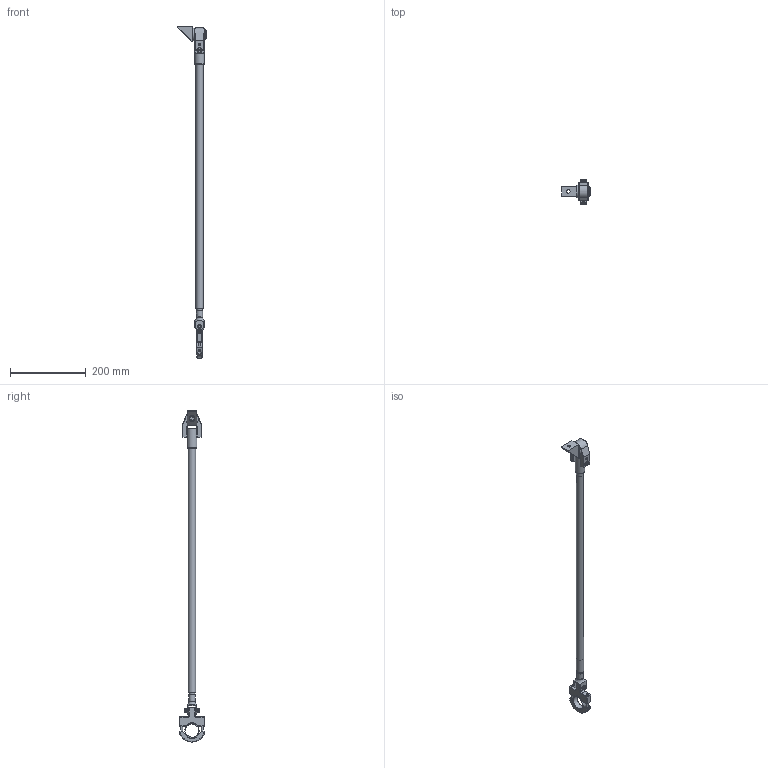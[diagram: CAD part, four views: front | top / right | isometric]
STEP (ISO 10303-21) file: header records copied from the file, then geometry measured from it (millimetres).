
FILE_DESCRIPTION(/* description */ ('Unknown'),/* implementation_level */ '2;1');
FILE_NAME(/* name */ '4-1201006_bras DMF 12_2000',/* time_stamp */ '2016-04-06T14:09:46+02:00',/* author */ ('Unknown'),/* organization */ ('Unknown'),/* preprocessor_version */ 'ST-DEVELOPER v16',/* originating_system */ 'DEX',/* authorisation */ $);
FILE_SCHEMA (('AUTOMOTIVE_DESIGN {1 0 10303 214 3 1 1}'));
Length unit declared in the file: millimetre
Products named in the file (30): 4-1201006_bras DMF 12_2000; Asm Pince pour DMF12; CHC M5x45 fileté sous tête; Collier DMF12; Pince pour DMF12; Placement; Asm Jonc 10 pour DMF12 Lg 2000; 05 Z; 06 Z; H M06 Nyl; CHC Epaulé M5-25; Goupille élastique; Chape pince pour DMF12; Tube 10,2x12; Jonc 10 RDB; Asm Tube 14 pour DMF12 Lg 2000; Tube 14,2x16; Tube 14x12,2 RDB; Asm Tube 19 pour DMF12 Lg 2000; Tube 19x16.2 RDB; Fourreau DMF12; Asm Pivot; CHC M8x30; Pivot S26; Asm Chape équilibreur pour DMF 12; Anneau élastique pour arbre 25; CHC Epaulé M6-30; Chape de fixation DMF12; Equerre
Assembly tree (31 placements, depth 3):
  4-1201006_bras DMF 12_2000
    Asm Pince pour DMF12
      CHC M5x45 fileté sous tête  x2
      Collier DMF12
      Pince pour DMF12
      Placement
    Asm Jonc 10 pour DMF12 Lg 2000
      05 Z
      06 Z
      H M06 Nyl
      CHC Epaulé M5-25
      Goupille élastique
      Chape pince pour DMF12
      Tube 10,2x12
      Jonc 10 RDB
    Asm Tube 14 pour DMF12 Lg 2000
      Tube 10,2x12
      Tube 14,2x16
      Tube 14x12,2 RDB
    Asm Tube 19 pour DMF12 Lg 2000
      Tube 14,2x16
      Tube 19x16.2 RDB
      Fourreau DMF12
    Asm Pivot
      CHC M8x30
      Pivot S26
    Asm Chape équilibreur pour DMF 12
      Anneau élastique pour arbre 25
      CHC Epaulé M6-30
      Chape de fixation DMF12
    Equerre
Bounding box: 74.75 x 67 x 877.16 mm (x, y, z)
Volume: 285234 mm3; surface area: 230557.9 mm2
Topology: 25 solids, 25 shells, 378 faces, 811 edges, 502 vertices
Faces by surface type: plane 253, cylinder 89, cone 31, torus 5
Full cylindrical faces by diameter (mm): 2 x2, 3.1 x3, 4.2 x2, 4.8 x2, 5 x7, 5.5 x2, 6 x8, 6.8 x1, 7.8 x1, 8 x5, 8.5 x3, 9 x4, 9.547 x1, 10 x4, 10.2 x2, 12 x3, 12.2 x1, 13 x2, 14 x2, 14.2 x2, 15 x2, 16 x3, 16.2 x1, 19 x1, 19.1 x1, 23.9 x1, 25 x3, 26 x1, 34 x1, 35 x1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
Entity records: 12468 total; most frequent: CARTESIAN_POINT 4529, DIRECTION 1578, ORIENTED_EDGE 1294, EDGE_CURVE 647, AXIS2_PLACEMENT_3D 580, EDGE_LOOP 527, FACE_BOUND 527, VERTEX_POINT 440
